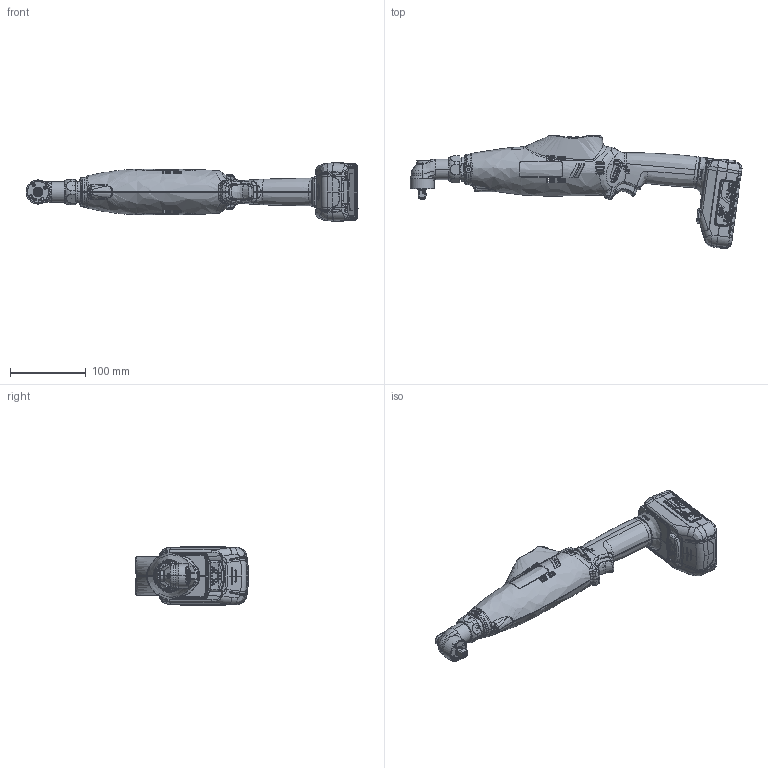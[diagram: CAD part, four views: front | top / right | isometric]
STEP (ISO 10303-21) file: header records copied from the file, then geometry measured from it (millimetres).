
FILE_DESCRIPTION (( 'STEP AP203' ), '1' );
FILE_NAME ('NRA-10S3.16S3.30S3.STEP', '2024-08-19T09:12:38', ( '' ), ( '' ), 'SwSTEP 2.0', 'SolidWorks 2021', '' );
FILE_SCHEMA (( 'CONFIG_CONTROL_DESIGN' ));
Products named in the file (1): NRA-10S3.16S3.30S3
Bounding box: 439.06 x 149.55 x 77 mm (x, y, z)
Surface area: 132266.4 mm2 (no closed solid volume)
Topology: 0 solids, 464 shells, 3178 faces, 13542 edges, 10506 vertices
Faces by surface type: cylinder 989, plane 937, bspline 908, torus 164, cone 155, sphere 25
Entity records: 212508 total; most frequent: CARTESIAN_POINT 117235, ORIENTED_EDGE 18497, DIRECTION 16297, EDGE_CURVE 13474, VERTEX_POINT 10504, AXIS2_PLACEMENT_3D 5729, VECTOR 4839, LINE 4839
